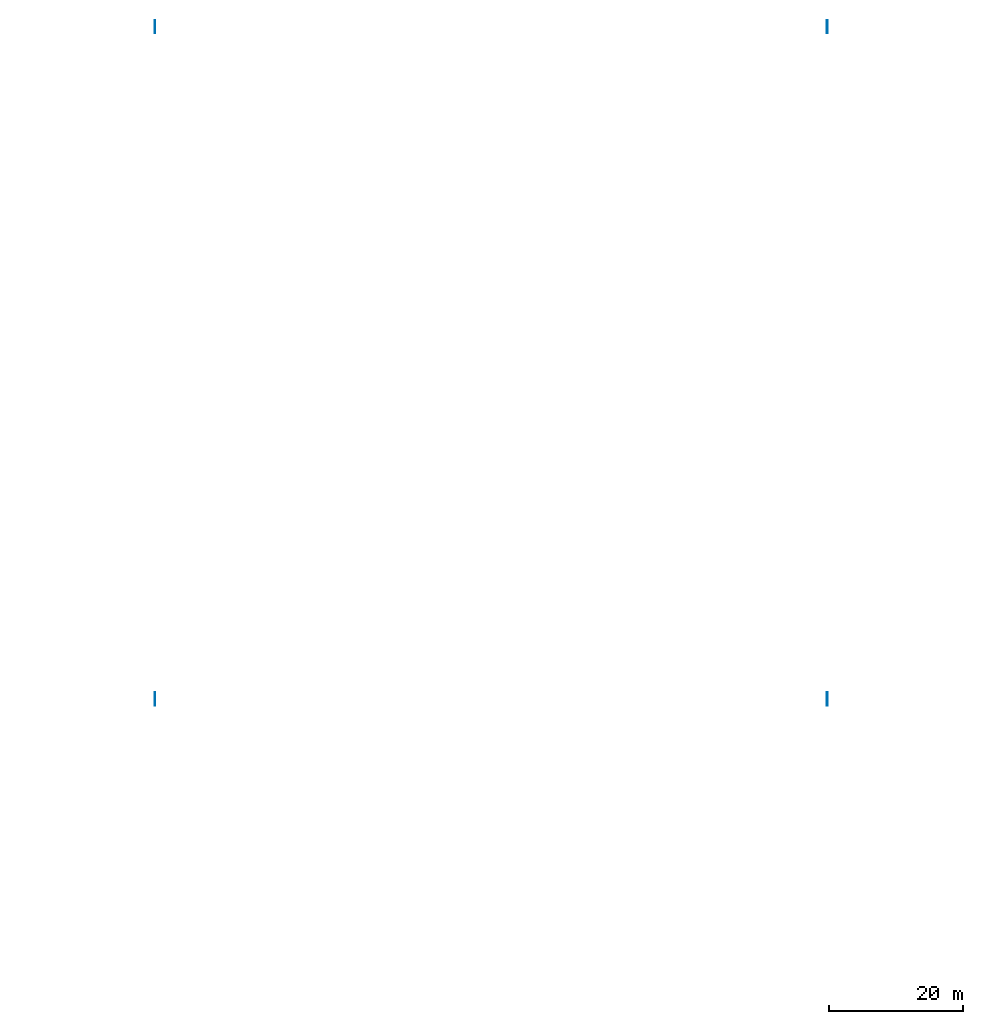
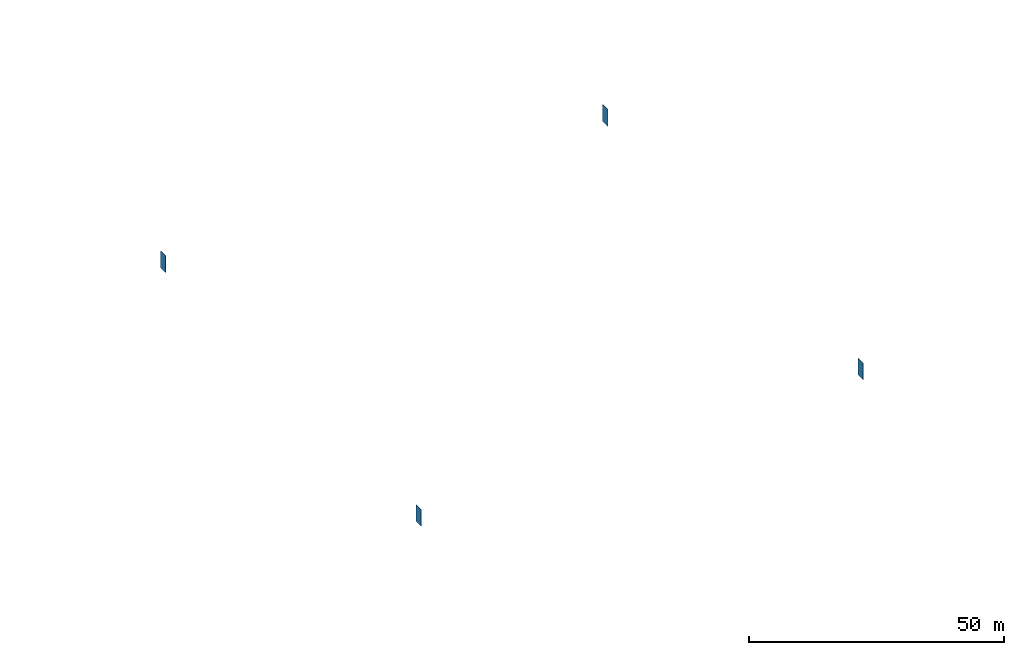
# One storey, part 133 of 164: 4 walls.
"""IFC2X3 building model written with IfcOpenShell, lengths in millimetres."""

from ifc_helpers import new_model, entity, si_unit, converted_unit, derived_unit, direction, frame, frame_2d, origin, place, context, subcontext, project, spatial, rectangle, extrude, material, layer, layer_set, layer_usage, type_object, element, save


model = new_model("IFC2X3")

# Units and contexts
model_context = context("Model", 3, precision=0.01, world=origin(), true_north=direction((6.12303176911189e-17, 1.0)))
body_context = subcontext(model_context, "Body", "Model", "MODEL_VIEW")
ifc_project = project(units=[si_unit("LENGTHUNIT", "METRE", prefix="MILLI"), si_unit("AREAUNIT", "SQUARE_METRE"), si_unit("VOLUMEUNIT", "CUBIC_METRE"), converted_unit("PLANEANGLEUNIT", "DEGREE", entity("IfcRatioMeasure", 0.0174532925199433), si_unit("PLANEANGLEUNIT", "RADIAN"), dimensions=[0, 0, 0, 0, 0, 0, 0]), si_unit("MASSUNIT", "GRAM", prefix="KILO"), derived_unit("MASSDENSITYUNIT", [(si_unit("MASSUNIT", "GRAM", prefix="KILO"), 1), (si_unit("LENGTHUNIT", "METRE"), -3)]), derived_unit("MOMENTOFINERTIAUNIT", [(si_unit("LENGTHUNIT", "METRE"), 4)]), si_unit("TIMEUNIT", "SECOND"), si_unit("FREQUENCYUNIT", "HERTZ"), si_unit("THERMODYNAMICTEMPERATUREUNIT", "DEGREE_CELSIUS"), derived_unit("THERMALTRANSMITTANCEUNIT", [(si_unit("MASSUNIT", "GRAM", prefix="KILO"), 1), (si_unit("THERMODYNAMICTEMPERATUREUNIT", "KELVIN"), -1), (si_unit("TIMEUNIT", "SECOND"), -3)]), derived_unit("VOLUMETRICFLOWRATEUNIT", [(si_unit("LENGTHUNIT", "METRE"), 3), (si_unit("TIMEUNIT", "SECOND"), -1)]), si_unit("ELECTRICCURRENTUNIT", "AMPERE"), si_unit("ELECTRICVOLTAGEUNIT", "VOLT"), si_unit("POWERUNIT", "WATT"), si_unit("FORCEUNIT", "NEWTON", prefix="KILO"), si_unit("ILLUMINANCEUNIT", "LUX"), si_unit("LUMINOUSFLUXUNIT", "LUMEN"), si_unit("LUMINOUSINTENSITYUNIT", "CANDELA"), derived_unit("USERDEFINED", [(si_unit("MASSUNIT", "GRAM", prefix="KILO"), -1), (si_unit("LENGTHUNIT", "METRE"), -2), (si_unit("TIMEUNIT", "SECOND"), 3), (si_unit("LUMINOUSFLUXUNIT", "LUMEN"), 1)]), derived_unit("LINEARVELOCITYUNIT", [(si_unit("LENGTHUNIT", "METRE"), 1), (si_unit("TIMEUNIT", "SECOND"), -1)]), si_unit("PRESSUREUNIT", "PASCAL"), derived_unit("USERDEFINED", [(si_unit("LENGTHUNIT", "METRE"), -2), (si_unit("MASSUNIT", "GRAM", prefix="KILO"), 1), (si_unit("TIMEUNIT", "SECOND"), -2)]), derived_unit("LINEARFORCEUNIT", [(si_unit("MASSUNIT", "GRAM", prefix="KILO"), 1), (si_unit("LENGTHUNIT", "METRE"), 1), (si_unit("TIMEUNIT", "SECOND"), -2), (si_unit("LENGTHUNIT", "METRE"), -1)]), derived_unit("PLANARFORCEUNIT", [(si_unit("MASSUNIT", "GRAM", prefix="KILO"), 1), (si_unit("LENGTHUNIT", "METRE"), 1), (si_unit("TIMEUNIT", "SECOND"), -2), (si_unit("LENGTHUNIT", "METRE"), -2)])], contexts=[model_context])

# Site, building, storey
site_placement = place(None, origin())
site = spatial("IfcSite", under=ifc_project, at=site_placement, Name="Default", CompositionType="ELEMENT")
building_placement = place(site_placement, origin())
building = spatial("IfcBuilding", under=site, at=building_placement, CompositionType="ELEMENT")
storey_placement = place(building_placement, origin())
storey = spatial("IfcBuildingStorey", under=building, at=storey_placement, Name="Level 1", CompositionType="ELEMENT", Elevation=0.0)

# Walls
ifc_material = material(Name="Default Wall")
ifc_layer = layer(ifc_material, 100.0)
ifc_layer_set = layer_set([ifc_layer], Name="Basic Wall:Generic - 100mm")
ifc_layer_usage_1 = layer_usage(ifc_layer_set, "AXIS2", "NEGATIVE", 50.0)
wall_type = type_object("IfcWallType", Name="Basic Wall:Generic - 100mm", PredefinedType="STANDARD", material=ifc_layer_set)
wall_1_placement = place(storey_placement, frame((600050.0, 1801000.0, 0.0), z_axis=(0.0, 0.0, 1.0), x_axis=(0.0, -1.0, 0.0)))
element("IfcWallStandardCase", 1, at=wall_1_placement, inside=storey, type_object=wall_type, material=ifc_layer_usage_1, Name="Basic Wall:Generic - 100mm", ObjectType="Basic Wall:Generic - 100mm", context=body_context, shape_type="SweptSolid", body=[
    extrude(rectangle(XDim=1999.99999999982, YDim=100.000000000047, at=frame_2d((999.999999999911, 1.60582658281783e-12), x_axis=(-1.0, 0.0))), origin(), (0.0, 0.0, 1.0), 4000.0),
])
ifc_layer_usage_2 = layer_usage(ifc_layer_set, "AXIS2", "NEGATIVE", 50.0)
wall_2_placement = place(storey_placement, frame((700050.0, 1801000.0, 0.0), z_axis=(0.0, 0.0, 1.0), x_axis=(0.0, -1.0, 0.0)))
element("IfcWallStandardCase", 2, at=wall_2_placement, inside=storey, type_object=wall_type, material=ifc_layer_usage_2, Name="Basic Wall:Generic - 100mm", ObjectType="Basic Wall:Generic - 100mm", context=body_context, shape_type="SweptSolid", body=[
    extrude(rectangle(XDim=1999.99999999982, YDim=100.000000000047, at=frame_2d((999.999999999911, 1.60582658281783e-12), x_axis=(-1.0, 0.0))), origin(), (0.0, 0.0, 1.0), 4000.0),
])
ifc_layer_usage_3 = layer_usage(ifc_layer_set, "AXIS2", "NEGATIVE", 50.0)
wall_3_placement = place(storey_placement, frame((600050.0, 1901000.0, 0.0), z_axis=(0.0, 0.0, 1.0), x_axis=(0.0, -1.0, 0.0)))
element("IfcWallStandardCase", 3, at=wall_3_placement, inside=storey, type_object=wall_type, material=ifc_layer_usage_3, Name="Basic Wall:Generic - 100mm", ObjectType="Basic Wall:Generic - 100mm", context=body_context, shape_type="SweptSolid", body=[
    extrude(rectangle(XDim=1999.99999999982, YDim=100.000000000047, at=frame_2d((999.999999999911, 1.60582658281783e-12), x_axis=(-1.0, 0.0))), origin(), (0.0, 0.0, 1.0), 4000.0),
])
ifc_layer_usage_4 = layer_usage(ifc_layer_set, "AXIS2", "NEGATIVE", 50.0)
wall_4_placement = place(storey_placement, frame((700050.0, 1901000.0, 0.0), z_axis=(0.0, 0.0, 1.0), x_axis=(0.0, -1.0, 0.0)))
element("IfcWallStandardCase", 4, at=wall_4_placement, inside=storey, type_object=wall_type, material=ifc_layer_usage_4, Name="Basic Wall:Generic - 100mm", ObjectType="Basic Wall:Generic - 100mm", context=body_context, shape_type="SweptSolid", body=[
    extrude(rectangle(XDim=1999.99999999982, YDim=100.000000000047, at=frame_2d((999.999999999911, 1.60582658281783e-12), x_axis=(-1.0, 0.0))), origin(), (0.0, 0.0, 1.0), 4000.0),
])

save(model, "model.ifc")
